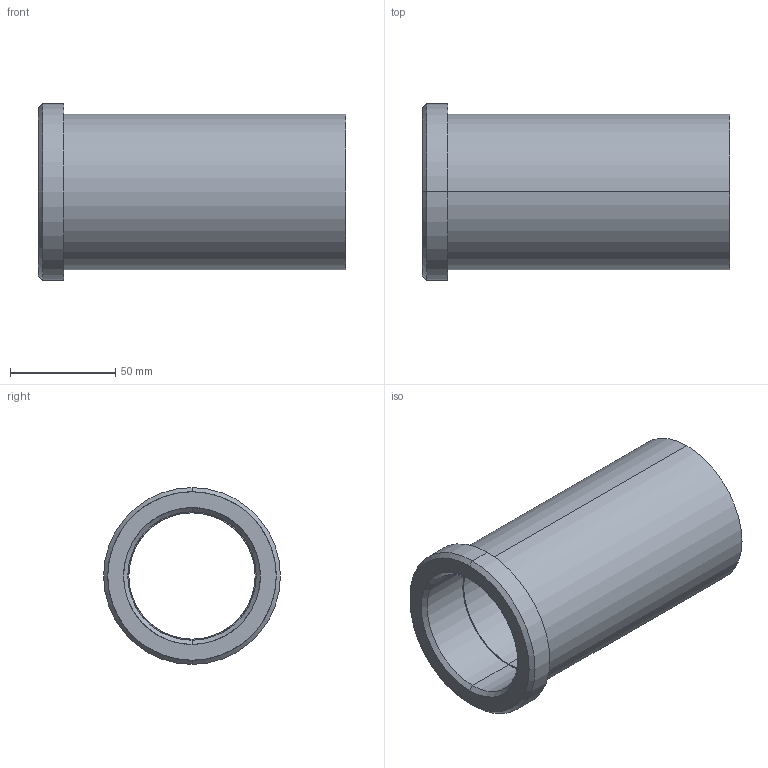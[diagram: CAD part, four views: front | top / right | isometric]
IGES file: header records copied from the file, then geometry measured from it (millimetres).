
Start section: START RECORD GO HERE.
Global section: file name: 353-60X146.igs; native system: DASSAULT SYSTEMES CATIA V5 R20 - www.3ds.com; preprocessor: CATIA Version 5 Release 20 ; author: Utente; organization: NB04-ASUS; date: 20210514.195712; units: millimetre
Bounding box: 146 x 84 x 84 mm (x, y, z)
Surface area: 66577.1 mm2 (no closed solid volume)
Topology: 0 solids, 0 shells, 18 faces, 116 edges, 116 vertices
Faces by surface type: revolution 14, plane 4
